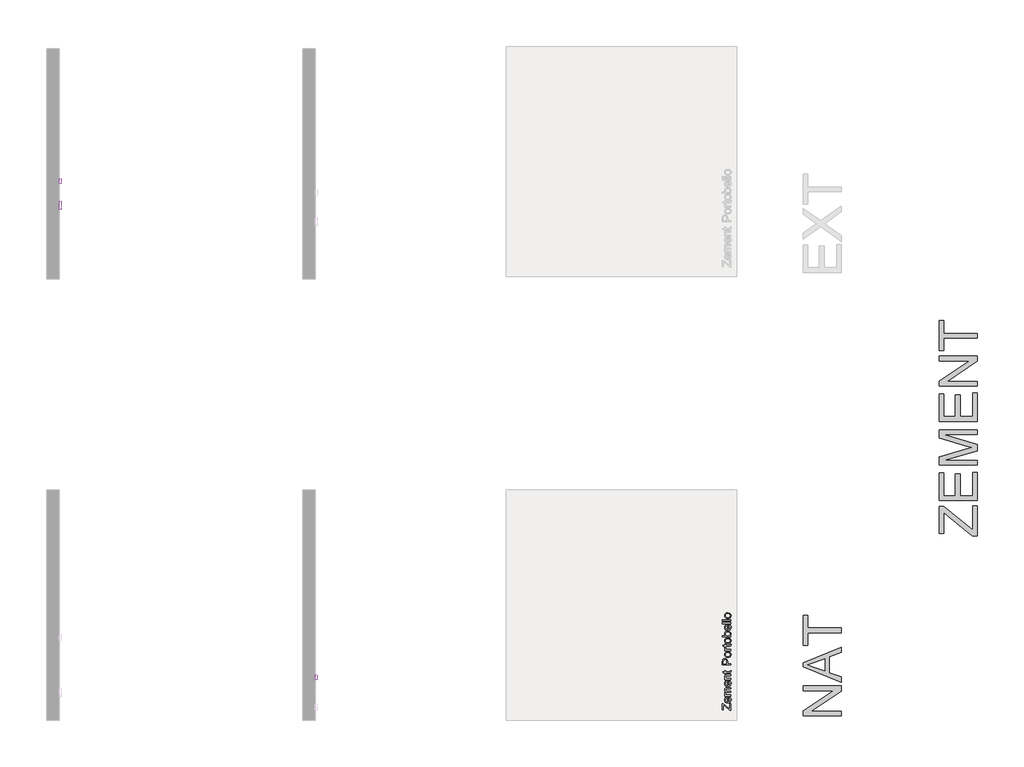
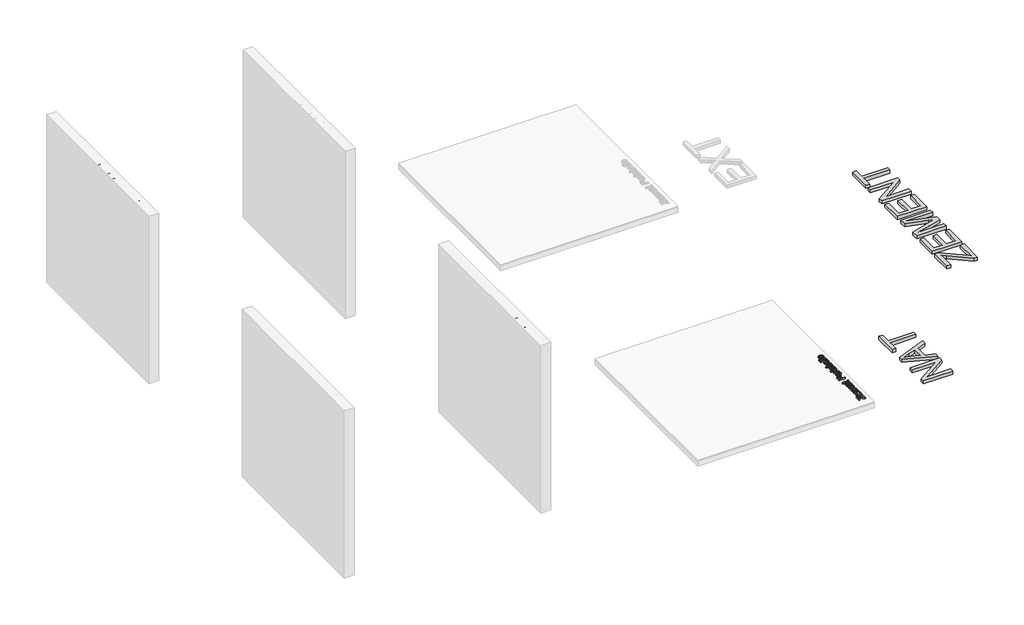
# One storey, part 10 of 12: 7 proxies.
"""IFC4 building model written with IfcOpenShell, lengths in millimetres."""

from ifc_helpers import new_model, si_unit, frame, origin, origin_with_axes, place, context, project, spatial, polyline, outline, extrude, element, save

model = new_model("IFC4")

# Units and contexts
model_context = context("Model", 3, world=origin())
ifc_project = project(units=[si_unit("LENGTHUNIT", "METRE", prefix="MILLI")], contexts=[model_context])

# Site, building, storey
site = spatial("IfcSite", under=ifc_project)
building = spatial("IfcBuilding", under=site)
storey = spatial("IfcBuildingStorey", under=building, Name="PORTOBELLO - SHOWROOM", Elevation=0.0)

# Proxies
placement = place(None, origin())
element("IfcBuildingElementProxy", 1, Name="10mm Arial", ObjectType="10mm Arial", at=placement, inside=storey, context=model_context, shape_type="SweptSolid", body=[
    extrude(outline(polyline([(42219.9517231, 12682.6766925), (42206.9287005, 12682.6766925), (42144.0208793, 12734.0575444), (42132.0524517, 12743.8186801), (42132.0524517, 12688.9552118), (42119.495413, 12688.9552118), (42119.495413, 12759.5885549), (42132.0524517, 12759.5885549), (42200.8954358, 12703.3516606), (42207.3946843, 12698.0541599), (42207.3946843, 12761.1581848), (42219.9517231, 12761.1581848), (42219.9517231, 12682.6766925)])), frame((0.0, 0.0, 17.0), z_axis=(0.0, 0.0, 1.0), x_axis=(1.0, 0.0, 0.0)), (0.0, 0.0, 1.0), 20.0),
    extrude(outline(polyline([(42197.9769053, 12825.3658557), (42199.5465351, 12837.6776398), (42208.8232928, 12833.241596), (42215.7578684, 12826.1629333), (42220.0804818, 12816.6010671), (42221.521353, 12804.715413), (42219.0350838, 12789.9817391), (42211.5762764, 12778.6448423), (42199.6293086, 12771.4159611), (42183.6785584, 12769.006334), (42167.1913136, 12771.4404865), (42154.8611354, 12778.7429441), (42147.1724017, 12789.9265568), (42144.6094905, 12804.0041745), (42147.1662704, 12817.6433994), (42154.83661, 12828.5419035), (42167.1422627, 12835.6880113), (42183.604982, 12838.0700472), (42186.9894963, 12837.9964708), (42186.9894963, 12781.5633728), (42196.3888813, 12783.7369422), (42203.2989315, 12788.7861226), (42207.5479685, 12796.0732518), (42208.9643142, 12804.9606677), (42206.3400893, 12817.2724518), (42197.9769053, 12825.3658557)]), holes=[polyline([(42174.4324576, 12781.5633728), (42174.4324576, 12825.5130084), (42163.0526412, 12820.4852878), (42158.6380572, 12813.1644361), (42157.1665293, 12803.9551235), (42161.8631561, 12788.491817), (42167.3537948, 12783.6265776), (42174.4324576, 12781.5633728)])]), frame((0.0, 0.0, 17.0), z_axis=(0.0, 0.0, 1.0), x_axis=(1.0, 0.0, 0.0)), (0.0, 0.0, 1.0), 20.0),
    extrude(outline(polyline([(42219.9517231, 12850.627086), (42146.1791203, 12850.627086), (42146.1791203, 12863.1841248), (42158.3192262, 12863.1841248), (42148.3741496, 12871.8170889), (42144.6094905, 12884.1043475), (42148.447726, 12896.6859118), (42159.202143, 12903.6020933), (42148.2576536, 12913.4000171), (42144.6094905, 12925.7731149), (42146.1270037, 12935.2123537), (42150.6795434, 12942.1929146), (42158.3897369, 12946.506331), (42169.3802115, 12947.9441364), (42219.9517231, 12947.9441364), (42219.9517231, 12935.3870977), (42174.7758141, 12935.3870977), (42164.2911772, 12934.222138), (42159.1285666, 12930.0037578), (42157.1665293, 12922.8300589), (42162.1942499, 12910.4814866), (42168.736418, 12906.7934696), (42178.3074813, 12905.5641306), (42219.9517231, 12905.5641306), (42219.9517231, 12893.0070918), (42173.3778625, 12893.0070918), (42161.2132312, 12890.1008241), (42157.1665293, 12880.5726804), (42159.8643306, 12871.2775286), (42167.7615307, 12865.0971111), (42182.7465907, 12863.1841248), (42219.9517231, 12863.1841248), (42219.9517231, 12850.627086)])), frame((0.0, 0.0, 17.0), z_axis=(0.0, 0.0, 1.0), x_axis=(1.0, 0.0, 0.0)), (0.0, 0.0, 1.0), 20.0),
    extrude(outline(polyline([(42197.9769053, 13018.4303267), (42199.5465351, 13030.7421108), (42208.8232928, 13026.3060671), (42215.7578684, 13019.2274044), (42220.0804818, 13009.6655382), (42221.521353, 12997.7798841), (42219.0350838, 12983.0462102), (42211.5762764, 12971.7093133), (42199.6293086, 12964.4804321), (42183.6785584, 12962.0708051), (42167.1913136, 12964.5049576), (42154.8611354, 12971.8074152), (42147.1724017, 12982.9910279), (42144.6094905, 12997.0686455), (42147.1662704, 13010.7078705), (42154.83661, 13021.6063746), (42167.1422627, 13028.7524824), (42183.604982, 13031.1345183), (42186.9894963, 13031.0609419), (42186.9894963, 12974.6278438), (42196.3888813, 12976.8014133), (42203.2989315, 12981.8505937), (42207.5479685, 12989.1377229), (42208.9643142, 12998.0251387), (42206.3400893, 13010.3369228), (42197.9769053, 13018.4303267)]), holes=[polyline([(42174.4324576, 12974.6278438), (42174.4324576, 13018.5774795), (42163.0526412, 13013.5497589), (42158.6380572, 13006.2289072), (42157.1665293, 12997.0195946), (42161.8631561, 12981.5562881), (42167.3537948, 12976.6910487), (42174.4324576, 12974.6278438)])]), frame((0.0, 0.0, 17.0), z_axis=(0.0, 0.0, 1.0), x_axis=(1.0, 0.0, 0.0)), (0.0, 0.0, 1.0), 20.0),
    extrude(outline(polyline([(42219.9517231, 13043.6915571), (42146.1791203, 13043.6915571), (42146.1791203, 13056.2485958), (42156.4798162, 13056.2485958), (42147.5770719, 13065.8503159), (42144.6094905, 13078.9591777), (42147.0007235, 13090.8172406), (42153.2792429, 13098.9106445), (42162.5130809, 13102.6753036), (42174.6531868, 13103.3374912), (42219.9517231, 13103.3374912), (42219.9517231, 13090.7804524), (42176.3454439, 13090.7804524), (42165.2354077, 13089.3334499), (42159.3615585, 13084.2198902), (42157.1665293, 13075.5991888), (42162.096148, 13061.9752922), (42169.2391901, 13057.6802699), (42180.8090788, 13056.2485958), (42219.9517231, 13056.2485958), (42219.9517231, 13043.6915571)])), frame((0.0, 0.0, 17.0), z_axis=(0.0, 0.0, 1.0), x_axis=(1.0, 0.0, 0.0)), (0.0, 0.0, 1.0), 20.0),
    extrude(outline(polyline([(42209.479349, 13147.2871269), (42220.3196051, 13148.8567567), (42221.521353, 13139.4635031), (42219.4366883, 13128.9420781), (42213.9675093, 13123.6936283), (42199.7182134, 13122.1730494), (42158.7361591, 13122.1730494), (42158.7361591, 13112.7552703), (42146.1791203, 13112.7552703), (42146.1791203, 13122.1730494), (42128.2510044, 13122.1730494), (42120.8688391, 13134.7300881), (42146.1791203, 13134.7300881), (42146.1791203, 13147.2871269), (42158.7361591, 13147.2871269), (42158.7361591, 13134.7300881), (42199.3503314, 13134.7300881), (42205.8250545, 13135.3922757), (42208.1181856, 13137.538254), (42208.9643142, 13141.8179479), (42209.479349, 13147.2871269)])), frame((0.0, 0.0, 17.0), z_axis=(0.0, 0.0, 1.0), x_axis=(1.0, 0.0, 0.0)), (0.0, 0.0, 1.0), 20.0),
])
element("IfcBuildingElementProxy", 2, Name="10mm Arial", ObjectType="10mm Arial", at=placement, inside=storey, context=model_context, shape_type="SweptSolid", body=[
    extrude(outline(polyline([(42219.9517231, 13215.5248417), (42119.495413, 13215.5248417), (42119.495413, 13252.7544996), (42120.4519061, 13267.764085), (42125.148533, 13279.9655045), (42134.8606176, 13287.8749674), (42148.5580906, 13290.8670743), (42160.3977595, 13288.846789), (42170.2631283, 13282.7859331), (42176.9217924, 13271.452102), (42179.1413471, 13253.6128909), (42179.1413471, 13228.0818805), (42219.9517231, 13228.0818805), (42219.9517231, 13215.5248417)]), holes=[polyline([(42166.5843083, 13228.0818805), (42166.5843083, 13254.3486549), (42161.9735207, 13272.8408565), (42156.4246339, 13276.9427408), (42148.999549, 13278.3100355), (42138.6007512, 13275.0849367), (42132.9108431, 13266.6113881), (42132.0524517, 13254.0543493), (42132.0524517, 13228.0818805), (42166.5843083, 13228.0818805)])]), frame((0.0, 0.0, 17.0), z_axis=(0.0, 0.0, 1.0), x_axis=(1.0, 0.0, 0.0)), (0.0, 0.0, 1.0), 20.0),
    extrude(outline(polyline([(42183.0654217, 13303.4241131), (42165.2783273, 13306.1403085), (42152.7764708, 13314.2888947), (42146.6512356, 13324.3565986), (42144.6094905, 13336.4108653), (42147.0957596, 13349.6025005), (42154.5545671, 13360.139254), (42166.3973017, 13367.0462384), (42182.0353521, 13369.3485666), (42204.378052, 13365.2773392), (42217.0209299, 13353.4192762), (42221.521353, 13336.4108653), (42219.0442809, 13323.0598146), (42211.6130646, 13312.5353238), (42199.5220096, 13305.7019158), (42183.0654217, 13303.4241131)]), holes=[polyline([(42183.0408963, 13315.9811518), (42194.4053842, 13317.4342857), (42202.5018538, 13321.7936874), (42207.3486991, 13328.3542496), (42208.9643142, 13336.4108653), (42207.339502, 13344.4306928), (42202.4650656, 13350.9789923), (42194.2612971, 13355.338394), (42182.6484888, 13356.7915278), (42171.6150946, 13355.3291969), (42163.6289896, 13350.9422041), (42158.7821444, 13344.3847075), (42157.1665293, 13336.4108653), (42158.776013, 13328.3542496), (42163.6044642, 13321.7936874), (42171.6825397, 13317.4342857), (42183.0408963, 13315.9811518)])]), frame((0.0, 0.0, 17.0), z_axis=(0.0, 0.0, 1.0), x_axis=(1.0, 0.0, 0.0)), (0.0, 0.0, 1.0), 20.0),
    extrude(outline(polyline([(42219.9517231, 13383.4752352), (42146.1791203, 13383.4752352), (42146.1791203, 13394.4626441), (42157.0929529, 13394.4626441), (42147.0375117, 13402.2617424), (42144.6094905, 13410.1098917), (42148.4845142, 13422.7159814), (42159.7417032, 13418.5221266), (42157.1665293, 13409.6929587), (42159.6436014, 13402.5928362), (42166.5107319, 13398.0678877), (42181.1769608, 13396.032274), (42219.9517231, 13396.032274), (42219.9517231, 13383.4752352)])), frame((0.0, 0.0, 17.0), z_axis=(0.0, 0.0, 1.0), x_axis=(1.0, 0.0, 0.0)), (0.0, 0.0, 1.0), 20.0),
    extrude(outline(polyline([(42209.479349, 13457.247838), (42220.3196051, 13458.8174678), (42221.521353, 13449.4242142), (42219.4366883, 13438.9027892), (42213.9675093, 13433.6543394), (42199.7182134, 13432.1337604), (42158.7361591, 13432.1337604), (42158.7361591, 13422.7159814), (42148.4845142, 13422.7159814), (42146.1791203, 13422.7159814), (42146.1791203, 13432.1337604), (42128.2510044, 13432.1337604), (42120.8688391, 13444.6907992), (42146.1791203, 13444.6907992), (42146.1791203, 13457.247838), (42158.7361591, 13457.247838), (42158.7361591, 13444.6907992), (42199.3503314, 13444.6907992), (42205.8250545, 13445.3529868), (42208.1181856, 13447.4989651), (42208.9643142, 13451.778659), (42209.479349, 13457.247838)])), frame((0.0, 0.0, 17.0), z_axis=(0.0, 0.0, 1.0), x_axis=(1.0, 0.0, 0.0)), (0.0, 0.0, 1.0), 20.0),
    extrude(outline(polyline([(42183.0654217, 13466.6656171), (42165.2783273, 13469.3818125), (42152.7764708, 13477.5303987), (42146.6512356, 13487.5981026), (42144.6094905, 13499.6523693), (42147.0957596, 13512.8440045), (42154.5545671, 13523.380758), (42166.3973017, 13530.2877424), (42182.0353521, 13532.5900706), (42204.378052, 13528.5188432), (42217.0209299, 13516.6607802), (42221.521353, 13499.6523693), (42219.0442809, 13486.3013186), (42211.6130646, 13475.7768278), (42199.5220096, 13468.9434197), (42183.0654217, 13466.6656171)]), holes=[polyline([(42183.0408963, 13479.2226558), (42194.4053842, 13480.6757897), (42202.5018538, 13485.0351914), (42207.3486991, 13491.5957536), (42208.9643142, 13499.6523693), (42207.339502, 13507.6721968), (42202.4650656, 13514.2204963), (42194.2612971, 13518.5798979), (42182.6484888, 13520.0330318), (42171.6150946, 13518.5707009), (42163.6289896, 13514.1837081), (42158.7821444, 13507.6262115), (42157.1665293, 13499.6523693), (42158.776013, 13491.5957536), (42163.6044642, 13485.0351914), (42171.6825397, 13480.6757897), (42183.0408963, 13479.2226558)])]), frame((0.0, 0.0, 17.0), z_axis=(0.0, 0.0, 1.0), x_axis=(1.0, 0.0, 0.0)), (0.0, 0.0, 1.0), 20.0),
    extrude(outline(polyline([(42219.9517231, 13559.273778), (42219.9517231, 13546.7167392), (42119.495413, 13546.7167392), (42119.495413, 13559.273778), (42156.7495963, 13559.273778), (42147.644517, 13568.0661577), (42144.6094905, 13578.9922529), (42147.34408, 13591.5738172), (42155.0328137, 13601.3349528), (42166.9889785, 13607.3314293), (42181.9617757, 13609.5019331), (42198.724932, 13607.2547872), (42211.1961316, 13600.5133496), (42218.9400476, 13590.6203897), (42221.521353, 13578.9186765), (42218.1920209, 13567.753458), (42208.2040247, 13559.273778), (42219.9517231, 13559.273778)]), holes=[polyline([(42182.5503869, 13559.273778), (42200.1106208, 13562.7073433), (42206.7508908, 13569.2862996), (42208.9643142, 13577.839556), (42207.3333707, 13585.0868313), (42202.4405401, 13591.2795116), (42194.3164794, 13595.5285486), (42182.9918453, 13596.9448943), (42171.5016643, 13595.5867966), (42163.4695741, 13591.5125035), (42158.7422905, 13585.5129613), (42157.1665293, 13578.3791163), (42158.7974728, 13571.131841), (42163.6903033, 13564.9391607), (42171.6672112, 13560.6901237), (42182.5503869, 13559.273778)])]), frame((0.0, 0.0, 17.0), z_axis=(0.0, 0.0, 1.0), x_axis=(1.0, 0.0, 0.0)), (0.0, 0.0, 1.0), 20.0),
    extrude(outline(polyline([(42197.9769053, 13675.2792338), (42199.5465351, 13687.5910179), (42208.8232928, 13683.1549742), (42215.7578684, 13676.0763114), (42220.0804818, 13666.5144453), (42221.521353, 13654.6287911), (42219.0350838, 13639.8951172), (42211.5762764, 13628.5582204), (42199.6293086, 13621.3293392), (42183.6785584, 13618.9197121), (42167.1913136, 13621.3538647), (42154.8611354, 13628.6563223), (42147.1724017, 13639.8399349), (42144.6094905, 13653.9175526), (42147.1662704, 13667.5567776), (42154.83661, 13678.4552817), (42167.1422627, 13685.6013894), (42183.604982, 13687.9834254), (42186.9894963, 13687.909849), (42186.9894963, 13631.4767509), (42196.3888813, 13633.6503204), (42203.2989315, 13638.6995007), (42207.5479685, 13645.9866299), (42208.9643142, 13654.8740458), (42206.3400893, 13667.1858299), (42197.9769053, 13675.2792338)]), holes=[polyline([(42174.4324576, 13631.4767509), (42174.4324576, 13675.4263866), (42163.0526412, 13670.398666), (42158.6380572, 13663.0778143), (42157.1665293, 13653.8685017), (42161.8631561, 13638.4051951), (42167.3537948, 13633.5399558), (42174.4324576, 13631.4767509)])]), frame((0.0, 0.0, 17.0), z_axis=(0.0, 0.0, 1.0), x_axis=(1.0, 0.0, 0.0)), (0.0, 0.0, 1.0), 20.0),
    extrude(outline(polyline([(42219.9517231, 13700.5404641), (42119.495413, 13700.5404641), (42119.495413, 13713.0975029), (42219.9517231, 13713.0975029), (42219.9517231, 13700.5404641)])), frame((0.0, 0.0, 17.0), z_axis=(0.0, 0.0, 1.0), x_axis=(1.0, 0.0, 0.0)), (0.0, 0.0, 1.0), 20.0),
    extrude(outline(polyline([(42219.9517231, 13731.933061), (42119.495413, 13731.933061), (42119.495413, 13744.4900998), (42219.9517231, 13744.4900998), (42219.9517231, 13731.933061)])), frame((0.0, 0.0, 17.0), z_axis=(0.0, 0.0, 1.0), x_axis=(1.0, 0.0, 0.0)), (0.0, 0.0, 1.0), 20.0),
    extrude(outline(polyline([(42183.0654217, 13760.1863983), (42165.2783273, 13762.9025937), (42152.7764708, 13771.0511799), (42146.6512356, 13781.1188838), (42144.6094905, 13793.1731505), (42147.0957596, 13806.3647857), (42154.5545671, 13816.9015392), (42166.3973017, 13823.8085237), (42182.0353521, 13826.1108518), (42204.378052, 13822.0396244), (42217.0209299, 13810.1815614), (42221.521353, 13793.1731505), (42219.0442809, 13779.8220998), (42211.6130646, 13769.297609), (42199.5220096, 13762.464201), (42183.0654217, 13760.1863983)]), holes=[polyline([(42183.0408963, 13772.743437), (42194.4053842, 13774.1965709), (42202.5018538, 13778.5559726), (42207.3486991, 13785.1165348), (42208.9643142, 13793.1731505), (42207.339502, 13801.192978), (42202.4650656, 13807.7412775), (42194.2612971, 13812.1006792), (42182.6484888, 13813.553813), (42171.6150946, 13812.0914821), (42163.6289896, 13807.7044893), (42158.7821444, 13801.1469928), (42157.1665293, 13793.1731505), (42158.776013, 13785.1165348), (42163.6044642, 13778.5559726), (42171.6825397, 13774.1965709), (42183.0408963, 13772.743437)])]), frame((0.0, 0.0, 17.0), z_axis=(0.0, 0.0, 1.0), x_axis=(1.0, 0.0, 0.0)), (0.0, 0.0, 1.0), 20.0),
])
element("IfcBuildingElementProxy", 3, Name="10mm Arial", ObjectType="10mm Arial", at=placement, inside=storey, context=model_context, shape_type="SweptSolid", body=[
    extrude(outline(polyline([(17847.2285621, 2518.9109306), (17847.2285621, 2531.9339532), (17898.6094141, 2594.8417744), (17908.3705497, 2606.8102019), (17853.5070815, 2606.8102019), (17853.5070815, 2619.3672407), (17924.1404245, 2619.3672407), (17924.1404245, 2606.8102019), (17867.9035302, 2537.9672179), (17862.6060295, 2531.4679693), (17925.7100544, 2531.4679693), (17925.7100544, 2518.9109306), (17847.2285621, 2518.9109306)])), frame((34348.7766485, 0.0, 0.0), z_axis=(1.0, 0.0, 0.0), x_axis=(0.0, 1.0, 0.0)), (0.0, 0.0, 1.0), 20.0),
    extrude(outline(polyline([(17989.9177253, 2540.8857484), (18002.2295094, 2539.3161186), (17997.7934656, 2530.0393609), (17990.7148029, 2523.1047853), (17981.1529367, 2518.7821719), (17969.2672826, 2517.3413007), (17954.5336087, 2519.8275699), (17943.1967119, 2527.2863773), (17935.9678307, 2539.2333451), (17933.5582036, 2555.1840953), (17935.9923561, 2571.67134), (17943.2948137, 2584.0015182), (17954.4784264, 2591.6902519), (17968.5560441, 2594.2531632), (17982.195269, 2591.6963833), (17993.0937732, 2584.0260437), (18000.2398809, 2571.720391), (18002.6219168, 2555.2576717), (18002.5483404, 2551.8731573), (17946.1152424, 2551.8731573), (17948.2888118, 2542.4737723), (17953.3379922, 2535.5637222), (17960.6251214, 2531.3146852), (17969.5125373, 2529.8983395), (17981.8243214, 2532.5225644), (17989.9177253, 2540.8857484)]), holes=[polyline([(17946.1152424, 2564.4301961), (17990.0648781, 2564.4301961), (17985.0371575, 2575.8100125), (17977.7163058, 2580.2245964), (17968.5069931, 2581.6961244), (17953.0436866, 2576.9994976), (17948.1784472, 2571.5088588), (17946.1152424, 2564.4301961)])]), frame((34348.7766485, 0.0, 0.0), z_axis=(1.0, 0.0, 0.0), x_axis=(0.0, 1.0, 0.0)), (0.0, 0.0, 1.0), 20.0),
    extrude(outline(polyline([(18015.1789556, 2518.9109306), (18015.1789556, 2592.6835333), (18027.7359944, 2592.6835333), (18027.7359944, 2580.5434275), (18036.3689585, 2590.4885041), (18048.6562172, 2594.2531632), (18061.2377814, 2590.4149277), (18068.1539629, 2579.6605107), (18077.9518867, 2590.6050001), (18090.3249845, 2594.2531632), (18099.7642233, 2592.7356499), (18106.7447842, 2588.1831103), (18111.0582006, 2580.4729168), (18112.4960061, 2569.4824422), (18112.4960061, 2518.9109306), (18099.9389673, 2518.9109306), (18099.9389673, 2564.0868396), (18098.7740076, 2574.5714764), (18094.5556274, 2579.7340871), (18087.3819285, 2581.6961244), (18075.0333562, 2576.6684038), (18071.3453392, 2570.1262357), (18070.1160002, 2560.5551724), (18070.1160002, 2518.9109306), (18057.5589614, 2518.9109306), (18057.5589614, 2565.4847911), (18054.6526937, 2577.6494225), (18045.12455, 2581.6961244), (18035.8293983, 2578.9983231), (18029.6489807, 2571.1011229), (18027.7359944, 2556.116063), (18027.7359944, 2518.9109306), (18015.1789556, 2518.9109306)])), frame((34348.7766485, 0.0, 0.0), z_axis=(1.0, 0.0, 0.0), x_axis=(0.0, 1.0, 0.0)), (0.0, 0.0, 1.0), 20.0),
    extrude(outline(polyline([(18182.9821963, 2540.8857484), (18195.2939804, 2539.3161186), (18190.8579367, 2530.0393609), (18183.779274, 2523.1047853), (18174.2174078, 2518.7821719), (18162.3317537, 2517.3413007), (18147.5980798, 2519.8275699), (18136.2611829, 2527.2863773), (18129.0323017, 2539.2333451), (18126.6226747, 2555.1840953), (18129.0568272, 2571.67134), (18136.3592848, 2584.0015182), (18147.5428975, 2591.6902519), (18161.6205151, 2594.2531632), (18175.2597401, 2591.6963833), (18186.1582442, 2584.0260437), (18193.304352, 2571.720391), (18195.6863879, 2555.2576717), (18195.6128115, 2551.8731573), (18139.1797134, 2551.8731573), (18141.3532829, 2542.4737723), (18146.4024633, 2535.5637222), (18153.6895925, 2531.3146852), (18162.5770083, 2529.8983395), (18174.8887924, 2532.5225644), (18182.9821963, 2540.8857484)]), holes=[polyline([(18139.1797134, 2564.4301961), (18183.1293491, 2564.4301961), (18178.1016285, 2575.8100125), (18170.7807768, 2580.2245964), (18161.5714642, 2581.6961244), (18146.1081577, 2576.9994976), (18141.2429183, 2571.5088588), (18139.1797134, 2564.4301961)])]), frame((34348.7766485, 0.0, 0.0), z_axis=(1.0, 0.0, 0.0), x_axis=(0.0, 1.0, 0.0)), (0.0, 0.0, 1.0), 20.0),
    extrude(outline(polyline([(18208.2434267, 2518.9109306), (18208.2434267, 2592.6835333), (18220.8004654, 2592.6835333), (18220.8004654, 2582.3828375), (18230.4021855, 2591.2855817), (18243.5110473, 2594.2531632), (18255.3691103, 2591.8619302), (18263.4625141, 2585.5834108), (18267.2271732, 2576.3495727), (18267.8893608, 2564.2094669), (18267.8893608, 2518.9109306), (18255.3323221, 2518.9109306), (18255.3323221, 2562.5172097), (18253.8853195, 2573.627246), (18248.7717598, 2579.5010952), (18240.1510584, 2581.6961244), (18226.5271618, 2576.7665057), (18222.2321395, 2569.6234636), (18220.8004654, 2558.0535748), (18220.8004654, 2518.9109306), (18208.2434267, 2518.9109306)])), frame((34348.7766485, 0.0, 0.0), z_axis=(1.0, 0.0, 0.0), x_axis=(0.0, 1.0, 0.0)), (0.0, 0.0, 1.0), 20.0),
    extrude(outline(polyline([(18311.8389965, 2529.3833047), (18313.4086264, 2518.5430486), (18304.0153727, 2517.3413007), (18293.4939477, 2519.4259654), (18288.2454979, 2524.8951443), (18286.724919, 2539.1444403), (18286.724919, 2580.1264946), (18277.3071399, 2580.1264946), (18277.3071399, 2592.6835333), (18286.724919, 2592.6835333), (18286.724919, 2610.6116492), (18299.2819577, 2617.9938146), (18299.2819577, 2592.6835333), (18311.8389965, 2592.6835333), (18311.8389965, 2580.1264946), (18299.2819577, 2580.1264946), (18299.2819577, 2539.5123223), (18299.9441453, 2533.0375992), (18302.0901236, 2530.7444681), (18306.3698175, 2529.8983395), (18311.8389965, 2529.3833047)])), frame((34348.7766485, 0.0, 0.0), z_axis=(1.0, 0.0, 0.0), x_axis=(0.0, 1.0, 0.0)), (0.0, 0.0, 1.0), 20.0),
    extrude(outline(polyline([(18365.2064113, 2518.9109306), (18365.2064113, 2619.3672407), (18432.7004947, 2619.3672407), (18432.7004947, 2606.8102019), (18377.76345, 2606.8102019), (18377.76345, 2576.9872349), (18424.8523454, 2576.9872349), (18424.8523454, 2564.4301961), (18377.76345, 2564.4301961), (18377.76345, 2518.9109306), (18365.2064113, 2518.9109306)])), frame((34348.7766485, 0.0, 0.0), z_axis=(1.0, 0.0, 0.0), x_axis=(0.0, 1.0, 0.0)), (0.0, 0.0, 1.0), 20.0),
    extrude(outline(polyline([(34368.7766485, 18460.9538319), (34368.7766485, 18448.3967931), (34348.7766485, 18448.3967931), (34348.7766485, 18460.9538319), (34368.7766485, 18460.9538319)])), frame((0.0, 0.0, 2518.9109306), z_axis=(0.0, 0.0, 1.0), x_axis=(1.0, 0.0, 0.0)), (0.0, 0.0, 1.0), 100.4563101),
    extrude(outline(polyline([(18526.8782854, 2528.3287096), (18514.7013914, 2519.8183728), (18501.2491731, 2517.3413007), (18490.7553392, 2518.8312228), (18483.0144889, 2523.300989), (18478.24122, 2530.0884118), (18476.6501303, 2538.5313036), (18479.0536261, 2548.4641175), (18485.3689336, 2555.6746046), (18494.1613133, 2559.794883), (18505.0260949, 2561.6833439), (18526.804709, 2565.9998259), (18526.8782854, 2568.7957291), (18523.4201947, 2578.0663554), (18509.5387807, 2581.6961244), (18496.8345892, 2579.280366), (18490.776799, 2570.7087155), (18478.2197602, 2572.2783453), (18483.652151, 2584.5410785), (18494.590509, 2591.7270401), (18511.1574615, 2594.2531632), (18526.3755134, 2592.0213457), (18534.9716893, 2586.4172767), (18538.8221875, 2577.8946771), (18539.4353242, 2566.9072682), (18539.4353242, 2551.2845461), (18540.0729863, 2529.4691438), (18542.5745839, 2518.9109306), (18530.0175451, 2518.9109306), (18526.8782854, 2528.3287096)]), holes=[polyline([(18526.8782854, 2553.4427872), (18506.6202502, 2549.592289), (18495.8167823, 2547.5566752), (18490.9239518, 2544.2457373), (18489.2071691, 2539.4142204), (18492.9473027, 2532.6206662), (18503.9224489, 2529.8983395), (18516.6266405, 2532.9027091), (18524.8181463, 2540.1745099), (18526.804709, 2549.8865946), (18526.8782854, 2553.4427872)])]), frame((34348.7766485, 0.0, 0.0), z_axis=(1.0, 0.0, 0.0), x_axis=(0.0, 1.0, 0.0)), (0.0, 0.0, 1.0), 20.0),
    extrude(outline(polyline([(18556.7012525, 2518.9109306), (18556.7012525, 2592.6835333), (18569.2582913, 2592.6835333), (18569.2582913, 2580.5434275), (18577.8912554, 2590.4885041), (18590.1785141, 2594.2531632), (18602.7600783, 2590.4149277), (18609.6762598, 2579.6605107), (18619.4741836, 2590.6050001), (18631.8472814, 2594.2531632), (18641.2865202, 2592.7356499), (18648.2670811, 2588.1831103), (18652.5804975, 2580.4729168), (18654.018303, 2569.4824422), (18654.018303, 2518.9109306), (18641.4612642, 2518.9109306), (18641.4612642, 2564.0868396), (18640.2963045, 2574.5714764), (18636.0779243, 2579.7340871), (18628.9042254, 2581.6961244), (18616.5556531, 2576.6684038), (18612.8676361, 2570.1262357), (18611.6382971, 2560.5551724), (18611.6382971, 2518.9109306), (18599.0812583, 2518.9109306), (18599.0812583, 2565.4847911), (18596.1749906, 2577.6494225), (18586.6468469, 2581.6961244), (18577.3516952, 2578.9983231), (18571.1712776, 2571.1011229), (18569.2582913, 2556.116063), (18569.2582913, 2518.9109306), (18556.7012525, 2518.9109306)])), frame((34348.7766485, 0.0, 0.0), z_axis=(1.0, 0.0, 0.0), x_axis=(0.0, 1.0, 0.0)), (0.0, 0.0, 1.0), 20.0),
    extrude(outline(polyline([(18724.5044932, 2540.8857484), (18736.8162773, 2539.3161186), (18732.3802336, 2530.0393609), (18725.3015709, 2523.1047853), (18715.7397047, 2518.7821719), (18703.8540506, 2517.3413007), (18689.1203767, 2519.8275699), (18677.7834798, 2527.2863773), (18670.5545986, 2539.2333451), (18668.1449716, 2555.1840953), (18670.5791241, 2571.67134), (18677.8815817, 2584.0015182), (18689.0651944, 2591.6902519), (18703.142812, 2594.2531632), (18716.782037, 2591.6963833), (18727.6805411, 2584.0260437), (18734.8266489, 2571.720391), (18737.2086848, 2555.2576717), (18737.1351084, 2551.8731573), (18680.7020103, 2551.8731573), (18682.8755798, 2542.4737723), (18687.9247602, 2535.5637222), (18695.2118894, 2531.3146852), (18704.0993052, 2529.8983395), (18716.4110893, 2532.5225644), (18724.5044932, 2540.8857484)]), holes=[polyline([(18680.7020103, 2564.4301961), (18724.651646, 2564.4301961), (18719.6239254, 2575.8100125), (18712.3030737, 2580.2245964), (18703.0937611, 2581.6961244), (18687.6304546, 2576.9994976), (18682.7652152, 2571.5088588), (18680.7020103, 2564.4301961)])]), frame((34348.7766485, 0.0, 0.0), z_axis=(1.0, 0.0, 0.0), x_axis=(0.0, 1.0, 0.0)), (0.0, 0.0, 1.0), 20.0),
    extrude(outline(polyline([(18745.056834, 2540.8857484), (18757.6138728, 2542.4553782), (18763.4264083, 2533.135701), (18776.7437365, 2529.8983395), (18789.54603, 2532.8659209), (18793.7153593, 2539.8311534), (18789.5215045, 2545.4720106), (18776.5965838, 2549.0527287), (18757.6874492, 2555.196358), (18749.4346298, 2562.3700569), (18746.6264639, 2572.4990745), (18748.8828068, 2581.8555399), (18755.0386988, 2589.0047134), (18763.0217381, 2592.7203215), (18773.8252061, 2594.2531632), (18789.1045716, 2591.7883538), (18798.8166563, 2585.117427), (18803.1331383, 2573.8479752), (18790.5760996, 2572.2783453), (18785.8549473, 2579.2067896), (18774.8062247, 2581.6961244), (18762.7887462, 2579.3171542), (18759.1835026, 2573.7743988), (18760.6795561, 2570.1201043), (18765.3639202, 2567.3487266), (18776.1796508, 2564.6754508), (18794.6105388, 2558.7648134), (18803.1699265, 2552.0693611), (18806.272398, 2541.1555285), (18802.6303663, 2529.13805), (18792.1212039, 2520.4192467), (18776.5720583, 2517.3413007), (18763.9107863, 2518.8250914), (18754.6708168, 2523.2764636), (18748.5026621, 2530.6463662), (18745.056834, 2540.8857484)])), frame((34348.7766485, 0.0, 0.0), z_axis=(1.0, 0.0, 0.0), x_axis=(0.0, 1.0, 0.0)), (0.0, 0.0, 1.0), 20.0),
])
element("IfcBuildingElementProxy", 4, Name="10mm Arial Narrow", ObjectType="10mm Arial Narrow", at=placement, inside=storey, context=model_context, shape_type="SweptSolid", body=[
    extrude(outline(polyline([(18857.2117704, 2518.9109306), (18857.2117704, 2619.6295343), (18888.5086551, 2619.6295343), (18904.8043566, 2617.7512136), (18916.2773427, 2608.2707704), (18920.5670212, 2591.2516616), (18918.7807128, 2579.175836), (18913.4217876, 2569.5494423), (18903.6779987, 2563.2481839), (18888.7370995, 2561.1477644), (18866.9587321, 2561.1477644), (18866.9587321, 2518.9109306), (18857.2117704, 2518.9109306)]), holes=[polyline([(18866.9587321, 2572.5192197), (18889.930087, 2572.5192197), (18905.7942824, 2577.0500339), (18910.8200595, 2590.7186246), (18908.345245, 2600.884401), (18902.3676162, 2606.6843509), (18889.7016426, 2608.258079), (18866.9587321, 2608.258079), (18866.9587321, 2572.5192197)])]), frame((34348.7766485, 0.0, 0.0), z_axis=(1.0, 0.0, 0.0), x_axis=(0.0, 1.0, 0.0)), (0.0, 0.0, 1.0), 20.0),
    extrude(outline(polyline([(18928.6894892, 2555.4620368), (18930.6439581, 2572.0528123), (18936.5073647, 2584.0048971), (18945.3659314, 2591.2294517), (18956.3058806, 2593.6376366), (18967.1189161, 2591.2294517), (18976.0028656, 2584.0048971), (18981.9424203, 2572.2431827), (18983.9222719, 2556.2235181), (18981.9773216, 2539.0616316), (18976.1424705, 2526.9191764), (18967.2934223, 2519.6946218), (18956.3058806, 2517.2864369), (18945.4452524, 2519.7009675), (18936.5708215, 2526.9445591), (18930.6598223, 2538.9029896), (18928.6894892, 2555.4620368)]), holes=[polyline([(18938.4364509, 2555.4874195), (18939.7404877, 2542.9356681), (18943.6525983, 2534.06441), (18949.4937951, 2528.7911515), (18956.5850904, 2527.0333986), (18963.3051636, 2528.8070156), (18968.9972369, 2534.1278668), (18972.8807919, 2543.014989), (18974.1753103, 2555.4874195), (18972.8712734, 2568.0010968), (18968.9591628, 2576.8596635), (18963.1179661, 2582.1329221), (18956.0266707, 2583.8906749), (18949.259005, 2582.1234035), (18943.5764502, 2576.8215894), (18939.7214507, 2567.9535042), (18938.4364509, 2555.4874195)])]), frame((34348.7766485, 0.0, 0.0), z_axis=(1.0, 0.0, 0.0), x_axis=(0.0, 1.0, 0.0)), (0.0, 0.0, 1.0), 20.0),
    extrude(outline(polyline([(19055.3999907, 2527.0333986), (19057.0244843, 2517.2864369), (19049.6634977, 2517.2864369), (19041.3887333, 2519.4058935), (19037.0736722, 2525.2058433), (19035.9060674, 2539.8516685), (19035.9060674, 2582.2661813), (19027.7835994, 2582.2661813), (19027.7835994, 2585.5151685), (19026.1591057, 2580.6416877), (19018.5950574, 2582.2661813), (19012.5158977, 2579.9436631), (19008.645034, 2573.45838), (19006.6651824, 2558.0510734), (19006.6651824, 2518.9109306), (18996.9182208, 2518.9109306), (18996.9182208, 2592.013143), (19006.6651824, 2592.013143), (19006.6651824, 2582.3169467), (19012.9093298, 2591.4039579), (19019.3057733, 2593.6376366), (19027.7835994, 2592.013143), (19035.9060674, 2592.013143), (19035.9060674, 2608.258079), (19045.6530291, 2616.3805471), (19045.6530291, 2592.013143), (19055.3999907, 2592.013143), (19055.3999907, 2582.2661813), (19045.6530291, 2582.2661813), (19045.6530291, 2537.6179898), (19046.5160413, 2529.6224353), (19051.135695, 2527.0333986), (19055.3999907, 2527.0333986)])), frame((34348.7766485, 0.0, 0.0), z_axis=(1.0, 0.0, 0.0), x_axis=(0.0, 1.0, 0.0)), (0.0, 0.0, 1.0), 20.0),
    extrude(outline(polyline([(19061.8979651, 2555.4620368), (19063.852434, 2572.0528123), (19069.7158406, 2584.0048971), (19078.5744073, 2591.2294517), (19089.5143565, 2593.6376366), (19100.3273921, 2591.2294517), (19109.2113415, 2584.0048971), (19115.1508963, 2572.2431827), (19117.1307478, 2556.2235181), (19115.1857975, 2539.0616316), (19109.3509464, 2526.9191764), (19100.5018982, 2519.6946218), (19089.5143565, 2517.2864369), (19078.6537283, 2519.7009675), (19069.7792974, 2526.9445591), (19063.8682982, 2538.9029896), (19061.8979651, 2555.4620368)]), holes=[polyline([(19071.6449268, 2555.4874195), (19072.9489637, 2542.9356681), (19076.8610742, 2534.06441), (19082.702271, 2528.7911515), (19089.7935663, 2527.0333986), (19096.5136395, 2528.8070156), (19102.2057128, 2534.1278668), (19106.0892678, 2543.014989), (19107.3837862, 2555.4874195), (19106.0797493, 2568.0010968), (19102.1676387, 2576.8596635), (19096.326442, 2582.1329221), (19089.2351467, 2583.8906749), (19082.4674809, 2582.1234035), (19076.7849261, 2576.8215894), (19072.9299266, 2567.9535042), (19071.6449268, 2555.4874195)])]), frame((34348.7766485, 0.0, 0.0), z_axis=(1.0, 0.0, 0.0), x_axis=(0.0, 1.0, 0.0)), (0.0, 0.0, 1.0), 20.0),
    extrude(outline(polyline([(19139.8736584, 2518.9109306), (19130.1266967, 2518.9109306), (19130.1266967, 2619.6295343), (19139.8736584, 2619.6295343), (19139.8736584, 2584.2206502), (19147.2727191, 2591.302427), (19156.4739524, 2593.6376366), (19169.3556791, 2589.4367976), (19178.6330606, 2576.7073672), (19182.1104922, 2556.0204564), (19180.1782332, 2539.566113), (19174.3814562, 2527.3633739), (19166.0083339, 2519.8056712), (19156.3470389, 2517.2864369), (19147.0062006, 2519.9008564), (19139.8736584, 2527.6679664), (19139.8736584, 2518.9109306)]), holes=[polyline([(19139.8736584, 2556.0204564), (19141.9550408, 2538.7729032), (19147.8438301, 2530.0412501), (19156.2962735, 2527.0333986), (19162.239001, 2528.8228798), (19167.4773584, 2534.1913236), (19172.3635306, 2555.614333), (19167.6550374, 2577.0500339), (19162.4103344, 2582.1805147), (19156.0932117, 2583.8906749), (19150.1155829, 2582.1011937), (19144.8232873, 2576.73275), (19139.8736584, 2556.0204564)])]), frame((34348.7766485, 0.0, 0.0), z_axis=(1.0, 0.0, 0.0), x_axis=(0.0, 1.0, 0.0)), (0.0, 0.0, 1.0), 20.0),
    extrude(outline(polyline([(19234.0942877, 2541.6538411), (19243.8412493, 2540.0293475), (19240.141719, 2530.1427809), (19234.3227321, 2523.02293), (19226.6190788, 2518.7205602), (19217.2655492, 2517.2864369), (19205.6719952, 2519.7009675), (19196.527873, 2526.9445591), (19190.5883182, 2538.7506933), (19188.6084666, 2554.8528517), (19190.5978367, 2571.5197753), (19196.5659471, 2583.7003046), (19205.5799829, 2591.1533036), (19216.7071295, 2593.6376366), (19227.3900787, 2591.2389702), (19236.1375961, 2584.0429712), (19241.9724471, 2572.3034666), (19243.9173975, 2556.2742836), (19243.8412493, 2553.0252963), (19198.3554283, 2553.0252963), (19204.3584398, 2533.5821385), (19210.2884761, 2528.6705836), (19217.3924628, 2527.0333986), (19227.5709305, 2530.6885092), (19234.0942877, 2541.6538411)]), holes=[polyline([(19199.0153788, 2562.772258), (19234.0942877, 2562.772258), (19229.829992, 2577.0373425), (19224.0046594, 2582.1773418), (19216.7832777, 2583.8906749), (19204.5741929, 2578.1795646), (19199.0153788, 2562.772258)])]), frame((34348.7766485, 0.0, 0.0), z_axis=(1.0, 0.0, 0.0), x_axis=(0.0, 1.0, 0.0)), (0.0, 0.0, 1.0), 20.0),
    extrude(outline(polyline([(34368.7766485, 19266.5841599), (34368.7766485, 19256.8371982), (34348.7766485, 19256.8371982), (34348.7766485, 19266.5841599), (34368.7766485, 19266.5841599)])), frame((0.0, 0.0, 2518.9109306), z_axis=(0.0, 0.0, 1.0), x_axis=(1.0, 0.0, 0.0)), (0.0, 0.0, 1.0), 100.7186038),
    extrude(outline(polyline([(34368.7766485, 19292.5760576), (34368.7766485, 19282.829096), (34348.7766485, 19282.829096), (34348.7766485, 19292.5760576), (34368.7766485, 19292.5760576)])), frame((0.0, 0.0, 2518.9109306), z_axis=(0.0, 0.0, 1.0), x_axis=(1.0, 0.0, 0.0)), (0.0, 0.0, 1.0), 100.7186038),
    extrude(outline(polyline([(19303.9475129, 2555.4620368), (19305.9019817, 2572.0528123), (19311.7653884, 2584.0048971), (19320.6239551, 2591.2294517), (19331.5639042, 2593.6376366), (19342.3769398, 2591.2294517), (19351.2608892, 2584.0048971), (19357.200444, 2572.2431827), (19359.1802956, 2556.2235181), (19357.2353452, 2539.0616316), (19351.4004942, 2526.9191764), (19342.551446, 2519.6946218), (19331.5639042, 2517.2864369), (19320.7032761, 2519.7009675), (19311.8288451, 2526.9445591), (19305.9178459, 2538.9029896), (19303.9475129, 2555.4620368)]), holes=[polyline([(19313.6944745, 2555.4874195), (19314.9985114, 2542.9356681), (19318.910622, 2534.06441), (19324.7518187, 2528.7911515), (19331.8431141, 2527.0333986), (19338.5631872, 2528.8070156), (19344.2552605, 2534.1278668), (19348.1388156, 2543.014989), (19349.4333339, 2555.4874195), (19348.1292971, 2568.0010968), (19344.2171865, 2576.8596635), (19338.3759897, 2582.1329221), (19331.2846944, 2583.8906749), (19324.5170286, 2582.1234035), (19318.8344738, 2576.8215894), (19314.9794744, 2567.9535042), (19313.6944745, 2555.4874195)])]), frame((34348.7766485, 0.0, 0.0), z_axis=(1.0, 0.0, 0.0), x_axis=(0.0, 1.0, 0.0)), (0.0, 0.0, 1.0), 20.0),
])
element("IfcBuildingElementProxy", 5, Name="10mm Arial Narrow", ObjectType="10mm Arial Narrow", at=placement, inside=storey, context=model_context, shape_type="SweptSolid", body=[
    extrude(outline(polyline([(13038.9994402, 2518.9109306), (13038.9994402, 2619.6295343), (13070.2963249, 2619.6295343), (13086.5920264, 2617.7512136), (13098.0650125, 2608.2707704), (13102.3546909, 2591.2516616), (13100.5683825, 2579.175836), (13095.2094573, 2569.5494423), (13085.4656685, 2563.2481839), (13070.5247693, 2561.1477644), (13048.7464018, 2561.1477644), (13048.7464018, 2518.9109306), (13038.9994402, 2518.9109306)]), holes=[polyline([(13048.7464018, 2572.5192197), (13071.7177568, 2572.5192197), (13087.5819522, 2577.0500339), (13092.6077293, 2590.7186246), (13090.1329148, 2600.884401), (13084.155286, 2606.6843509), (13071.4893124, 2608.258079), (13048.7464018, 2608.258079), (13048.7464018, 2572.5192197)])]), frame((37348.7766485, 0.0, 0.0), z_axis=(1.0, 0.0, 0.0), x_axis=(0.0, 1.0, 0.0)), (0.0, 0.0, 1.0), 20.0),
    extrude(outline(polyline([(13110.477159, 2555.4620368), (13112.4316278, 2572.0528123), (13118.2950345, 2584.0048971), (13127.1536012, 2591.2294517), (13138.0935503, 2593.6376366), (13148.9065859, 2591.2294517), (13157.7905353, 2584.0048971), (13163.7300901, 2572.2431827), (13165.7099417, 2556.2235181), (13163.7649913, 2539.0616316), (13157.9301402, 2526.9191764), (13149.0810921, 2519.6946218), (13138.0935503, 2517.2864369), (13127.2329222, 2519.7009675), (13118.3584912, 2526.9445591), (13112.447492, 2538.9029896), (13110.477159, 2555.4620368)]), holes=[polyline([(13120.2241206, 2555.4874195), (13121.5281575, 2542.9356681), (13125.4402681, 2534.06441), (13131.2814648, 2528.7911515), (13138.3727602, 2527.0333986), (13145.0928333, 2528.8070156), (13150.7849066, 2534.1278668), (13154.6684617, 2543.014989), (13155.96298, 2555.4874195), (13154.6589432, 2568.0010968), (13150.7468326, 2576.8596635), (13144.9056358, 2582.1329221), (13137.8143405, 2583.8906749), (13131.0466747, 2582.1234035), (13125.3641199, 2576.8215894), (13121.5091204, 2567.9535042), (13120.2241206, 2555.4874195)])]), frame((37348.7766485, 0.0, 0.0), z_axis=(1.0, 0.0, 0.0), x_axis=(0.0, 1.0, 0.0)), (0.0, 0.0, 1.0), 20.0),
    extrude(outline(polyline([(13237.1876605, 2527.0333986), (13238.8121541, 2517.2864369), (13231.4511674, 2517.2864369), (13223.1764031, 2519.4058935), (13218.8613419, 2525.2058433), (13217.6937372, 2539.8516685), (13217.6937372, 2582.2661813), (13209.5712691, 2582.2661813), (13209.5712691, 2585.5151685), (13207.9467755, 2580.6416877), (13200.3827271, 2582.2661813), (13194.3035675, 2579.9436631), (13190.4327038, 2573.45838), (13188.4528522, 2558.0510734), (13188.4528522, 2518.9109306), (13178.7058905, 2518.9109306), (13178.7058905, 2592.013143), (13188.4528522, 2592.013143), (13188.4528522, 2582.3169467), (13194.6969995, 2591.4039579), (13201.0934431, 2593.6376366), (13209.5712691, 2592.013143), (13217.6937372, 2592.013143), (13217.6937372, 2608.258079), (13227.4406988, 2616.3805471), (13227.4406988, 2592.013143), (13237.1876605, 2592.013143), (13237.1876605, 2582.2661813), (13227.4406988, 2582.2661813), (13227.4406988, 2537.6179898), (13228.303711, 2529.6224353), (13232.9233647, 2527.0333986), (13237.1876605, 2527.0333986)])), frame((37348.7766485, 0.0, 0.0), z_axis=(1.0, 0.0, 0.0), x_axis=(0.0, 1.0, 0.0)), (0.0, 0.0, 1.0), 20.0),
    extrude(outline(polyline([(13243.6856349, 2555.4620368), (13245.6401038, 2572.0528123), (13251.5035104, 2584.0048971), (13260.3620771, 2591.2294517), (13271.3020263, 2593.6376366), (13282.1150618, 2591.2294517), (13290.9990113, 2584.0048971), (13296.938566, 2572.2431827), (13298.9184176, 2556.2235181), (13296.9734672, 2539.0616316), (13291.1386162, 2526.9191764), (13282.289568, 2519.6946218), (13271.3020263, 2517.2864369), (13260.4413981, 2519.7009675), (13251.5669672, 2526.9445591), (13245.655968, 2538.9029896), (13243.6856349, 2555.4620368)]), holes=[polyline([(13253.4325966, 2555.4874195), (13254.7366334, 2542.9356681), (13258.648744, 2534.06441), (13264.4899407, 2528.7911515), (13271.5812361, 2527.0333986), (13278.3013093, 2528.8070156), (13283.9933826, 2534.1278668), (13287.8769376, 2543.014989), (13289.171456, 2555.4874195), (13287.8674191, 2568.0010968), (13283.9553085, 2576.8596635), (13278.1141118, 2582.1329221), (13271.0228164, 2583.8906749), (13264.2551507, 2582.1234035), (13258.5725959, 2576.8215894), (13254.7175964, 2567.9535042), (13253.4325966, 2555.4874195)])]), frame((37348.7766485, 0.0, 0.0), z_axis=(1.0, 0.0, 0.0), x_axis=(0.0, 1.0, 0.0)), (0.0, 0.0, 1.0), 20.0),
    extrude(outline(polyline([(13321.6613281, 2518.9109306), (13311.9143665, 2518.9109306), (13311.9143665, 2619.6295343), (13321.6613281, 2619.6295343), (13321.6613281, 2584.2206502), (13329.0603889, 2591.302427), (13338.2616222, 2593.6376366), (13351.1433489, 2589.4367976), (13360.4207303, 2576.7073672), (13363.898162, 2556.0204564), (13361.965903, 2539.566113), (13356.169126, 2527.3633739), (13347.7960036, 2519.8056712), (13338.1347086, 2517.2864369), (13328.7938704, 2519.9008564), (13321.6613281, 2527.6679664), (13321.6613281, 2518.9109306)]), holes=[polyline([(13321.6613281, 2556.0204564), (13323.7427106, 2538.7729032), (13329.6314999, 2530.0412501), (13338.0839432, 2527.0333986), (13344.0266708, 2528.8228798), (13349.2650281, 2534.1913236), (13354.1512003, 2555.614333), (13349.4427071, 2577.0500339), (13344.1980041, 2582.1805147), (13337.8808815, 2583.8906749), (13331.9032527, 2582.1011937), (13326.6109571, 2576.73275), (13321.6613281, 2556.0204564)])]), frame((37348.7766485, 0.0, 0.0), z_axis=(1.0, 0.0, 0.0), x_axis=(0.0, 1.0, 0.0)), (0.0, 0.0, 1.0), 20.0),
    extrude(outline(polyline([(13415.8819574, 2541.6538411), (13425.6289191, 2540.0293475), (13421.9293887, 2530.1427809), (13416.1104019, 2523.02293), (13408.4067486, 2518.7205602), (13399.053219, 2517.2864369), (13387.459665, 2519.7009675), (13378.3155427, 2526.9445591), (13372.375988, 2538.7506933), (13370.3961364, 2554.8528517), (13372.3855065, 2571.5197753), (13378.3536168, 2583.7003046), (13387.3676526, 2591.1533036), (13398.4947993, 2593.6376366), (13409.1777485, 2591.2389702), (13417.9252658, 2584.0429712), (13423.7601169, 2572.3034666), (13425.7050672, 2556.2742836), (13425.6289191, 2553.0252963), (13380.143098, 2553.0252963), (13386.1461096, 2533.5821385), (13392.0761458, 2528.6705836), (13399.1801325, 2527.0333986), (13409.3586003, 2530.6885092), (13415.8819574, 2541.6538411)]), holes=[polyline([(13380.8030486, 2562.772258), (13415.8819574, 2562.772258), (13411.6176617, 2577.0373425), (13405.7923292, 2582.1773418), (13398.5709474, 2583.8906749), (13386.3618626, 2578.1795646), (13380.8030486, 2562.772258)])]), frame((37348.7766485, 0.0, 0.0), z_axis=(1.0, 0.0, 0.0), x_axis=(0.0, 1.0, 0.0)), (0.0, 0.0, 1.0), 20.0),
    extrude(outline(polyline([(37368.7766485, 13448.3718296), (37368.7766485, 13438.624868), (37348.7766485, 13438.624868), (37348.7766485, 13448.3718296), (37368.7766485, 13448.3718296)])), frame((0.0, 0.0, 2518.9109306), z_axis=(0.0, 0.0, 1.0), x_axis=(1.0, 0.0, 0.0)), (0.0, 0.0, 1.0), 100.7186038),
    extrude(outline(polyline([(37368.7766485, 13474.3637274), (37368.7766485, 13464.6167657), (37348.7766485, 13464.6167657), (37348.7766485, 13474.3637274), (37368.7766485, 13474.3637274)])), frame((0.0, 0.0, 2518.9109306), z_axis=(0.0, 0.0, 1.0), x_axis=(1.0, 0.0, 0.0)), (0.0, 0.0, 1.0), 100.7186038),
    extrude(outline(polyline([(13485.7351826, 2555.4620368), (13487.6896515, 2572.0528123), (13493.5530581, 2584.0048971), (13502.4116248, 2591.2294517), (13513.351574, 2593.6376366), (13524.1646096, 2591.2294517), (13533.048559, 2584.0048971), (13538.9881137, 2572.2431827), (13540.9679653, 2556.2235181), (13539.023015, 2539.0616316), (13533.1881639, 2526.9191764), (13524.3391157, 2519.6946218), (13513.351574, 2517.2864369), (13502.4909458, 2519.7009675), (13493.6165149, 2526.9445591), (13487.7055157, 2538.9029896), (13485.7351826, 2555.4620368)]), holes=[polyline([(13495.4821443, 2555.4874195), (13496.7861811, 2542.9356681), (13500.6982917, 2534.06441), (13506.5394885, 2528.7911515), (13513.6307838, 2527.0333986), (13520.350857, 2528.8070156), (13526.0429303, 2534.1278668), (13529.9264853, 2543.014989), (13531.2210037, 2555.4874195), (13529.9169668, 2568.0010968), (13526.0048562, 2576.8596635), (13520.1636595, 2582.1329221), (13513.0723641, 2583.8906749), (13506.3046984, 2582.1234035), (13500.6221436, 2576.8215894), (13496.7671441, 2567.9535042), (13495.4821443, 2555.4874195)])]), frame((37348.7766485, 0.0, 0.0), z_axis=(1.0, 0.0, 0.0), x_axis=(0.0, 1.0, 0.0)), (0.0, 0.0, 1.0), 20.0),
])
element("IfcBuildingElementProxy", 6, Name="450mm Arial", ObjectType="450mm Arial", at=placement, inside=storey, context=model_context, shape_type="SweptSolid", body=[
    extrude(outline(polyline([(43514.4179057, 12617.0488385), (43064.7617629, 12617.0488385), (43064.7617629, 12677.2079123), (43420.9956944, 12912.1356822), (43064.7617629, 12912.1356822), (43064.7617629, 12968.3427), (43514.4179057, 12968.3427), (43514.4179057, 12908.1836262), (43158.0741949, 12673.2558563), (43514.4179057, 12673.2558563), (43514.4179057, 12617.0488385)])), origin_with_axes(), (0.0, 0.0, 1.0), 50.0),
    extrude(outline(polyline([(43514.4179057, 13014.34024), (43064.7617629, 13193.8294474), (43064.7617629, 13241.6932361), (43514.4179057, 13421.1824435), (43514.4179057, 13361.791825), (43373.9003611, 13310.3053184), (43373.9003611, 13125.1075858), (43514.4179057, 13073.7308585), (43514.4179057, 13014.34024)]), holes=[polyline([(43317.6933432, 13145.7461001), (43317.6933432, 13289.7765834), (43207.1455562, 13249.26801), (43120.9687807, 13217.7613418), (43197.484975, 13189.7676122), (43317.6933432, 13145.7461001)])]), origin_with_axes(), (0.0, 0.0, 1.0), 50.0),
    extrude(outline(polyline([(43514.4179057, 13593.6457736), (43120.9687807, 13593.6457736), (43120.9687807, 13446.1023518), (43064.7617629, 13446.1023518), (43064.7617629, 13797.3962134), (43120.9687807, 13797.3962134), (43120.9687807, 13649.8527915), (43514.4179057, 13649.8527915), (43514.4179057, 13593.6457736)])), origin_with_axes(), (0.0, 0.0, 1.0), 50.0),
])
element("IfcBuildingElementProxy", 7, Name="450mm Arial", ObjectType="450mm Arial", at=placement, inside=storey, context=model_context, shape_type="SweptSolid", body=[
    extrude(outline(polyline([(45108.227034, 14729.7269862), (45049.9342088, 14729.7269862), (44768.3502229, 14959.7146862), (44714.777909, 15003.4068602), (44714.777909, 14757.8304951), (44658.5708912, 14757.8304951), (44658.5708912, 15073.9949706), (44714.777909, 15073.9949706), (45022.9284932, 14822.2709629), (45052.0200161, 14798.5586272), (45052.0200161, 15081.0208478), (45108.227034, 15081.0208478), (45108.227034, 14729.7269862)])), origin_with_axes(), (0.0, 0.0, 1.0), 50.0),
    extrude(outline(polyline([(45108.227034, 15144.2537429), (44658.5708912, 15144.2537429), (44658.5708912, 15467.4440955), (44714.777909, 15467.4440955), (44714.777909, 15200.4607607), (44848.2695764, 15200.4607607), (44848.2695764, 15453.3923411), (44904.4765943, 15453.3923411), (44904.4765943, 15200.4607607), (45052.0200161, 15200.4607607), (45052.0200161, 15474.4699728), (45108.227034, 15474.4699728), (45108.227034, 15144.2537429)])), origin_with_axes(), (0.0, 0.0, 1.0), 50.0),
    extrude(outline(polyline([(45108.227034, 15558.7804995), (44658.5708912, 15558.7804995), (44658.5708912, 15655.4960908), (44975.5038219, 15747.4911708), (45041.7007589, 15766.0438779), (44970.0148553, 15786.1334956), (44658.5708912, 15876.5916649), (44658.5708912, 15973.3072562), (45108.227034, 15973.3072562), (45108.227034, 15917.1002383), (44714.777909, 15917.1002383), (45108.227034, 15804.137306), (45108.227034, 15727.9504497), (44714.777909, 15614.9875174), (45108.227034, 15614.9875174), (45108.227034, 15558.7804995)])), origin_with_axes(), (0.0, 0.0, 1.0), 50.0),
    extrude(outline(polyline([(45108.227034, 16071.6695374), (44658.5708912, 16071.6695374), (44658.5708912, 16394.8598901), (44714.777909, 16394.8598901), (44714.777909, 16127.8765553), (44848.2695764, 16127.8765553), (44848.2695764, 16380.8081356), (44904.4765943, 16380.8081356), (44904.4765943, 16127.8765553), (45052.0200161, 16127.8765553), (45052.0200161, 16401.8857673), (45108.227034, 16401.8857673), (45108.227034, 16071.6695374)])), origin_with_axes(), (0.0, 0.0, 1.0), 50.0),
    extrude(outline(polyline([(45108.227034, 16486.1962941), (44658.5708912, 16486.1962941), (44658.5708912, 16546.3553679), (45014.8048227, 16781.2831378), (44658.5708912, 16781.2831378), (44658.5708912, 16837.4901557), (45108.227034, 16837.4901557), (45108.227034, 16777.3310819), (44751.8833231, 16542.4033119), (45108.227034, 16542.4033119), (45108.227034, 16486.1962941)])), origin_with_axes(), (0.0, 0.0, 1.0), 50.0),
    extrude(outline(polyline([(45108.227034, 17048.2664726), (44714.777909, 17048.2664726), (44714.777909, 16900.7230507), (44658.5708912, 16900.7230507), (44658.5708912, 17252.0169123), (44714.777909, 17252.0169123), (44714.777909, 17104.4734905), (45108.227034, 17104.4734905), (45108.227034, 17048.2664726)])), origin_with_axes(), (0.0, 0.0, 1.0), 50.0),
])

save(model, "model.ifc")
